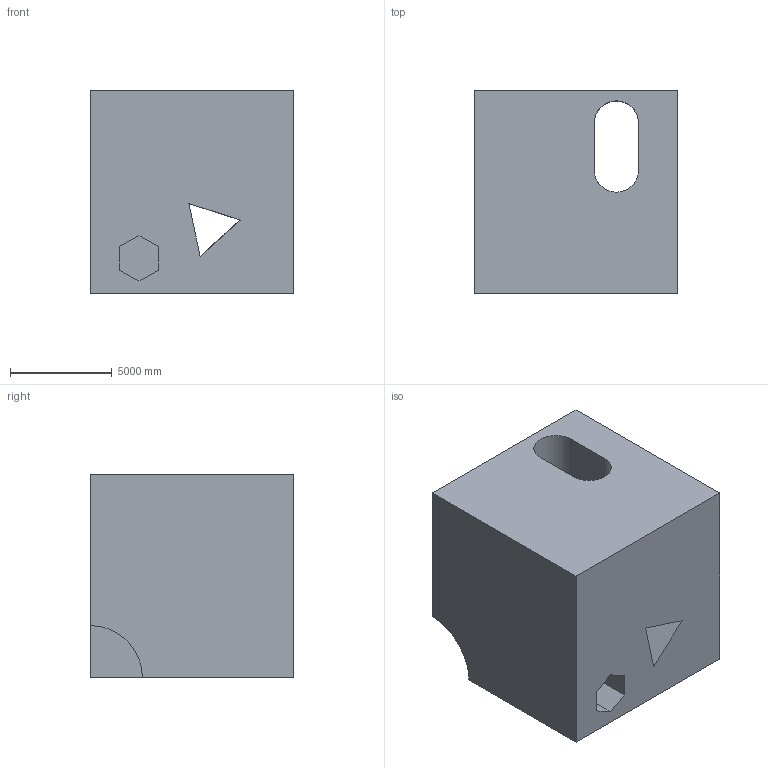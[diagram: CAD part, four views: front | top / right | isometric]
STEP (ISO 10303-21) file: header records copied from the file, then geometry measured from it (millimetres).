
FILE_DESCRIPTION (( 'STEP AP203' ), '1' );
FILE_NAME ('539.STEP', '2022-08-04T14:30:38', ( 'user' ), ( '' ), 'SwSTEP 2.0', 'SolidWorks 2021', '' );
FILE_SCHEMA (( 'CONFIG_CONTROL_DESIGN' ));
Length unit declared in the file: centimetre
Products named in the file (1): 539
Bounding box: 10000 x 10000 x 10000 mm (x, y, z)
Volume: 818908453102.5 mm3; surface area: 798138893.3 mm2
Topology: 1 solids, 1 shells, 33 faces, 93 edges, 62 vertices
Faces by surface type: plane 30, cylinder 3
Entity records: 1142 total; most frequent: CARTESIAN_POINT 201, ORIENTED_EDGE 186, DIRECTION 163, EDGE_CURVE 93, VECTOR 83, LINE 83, VERTEX_POINT 62, AXIS2_PLACEMENT_3D 40
